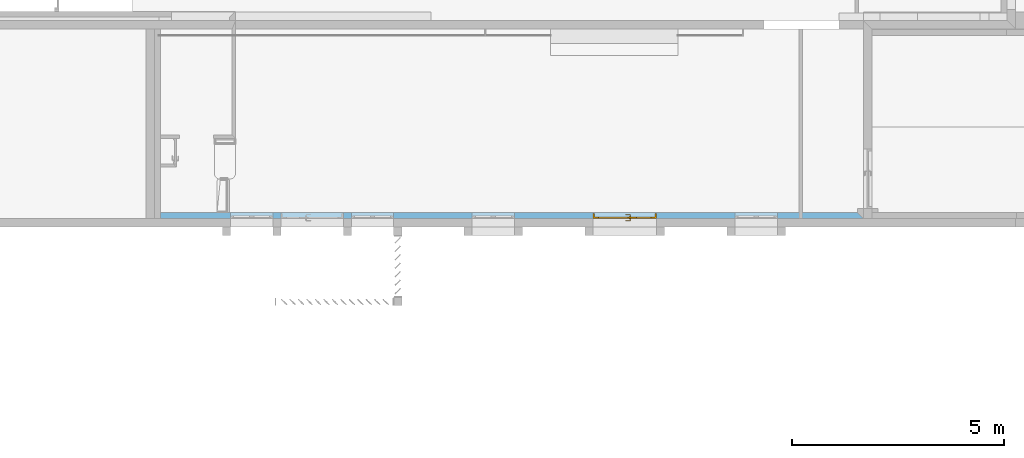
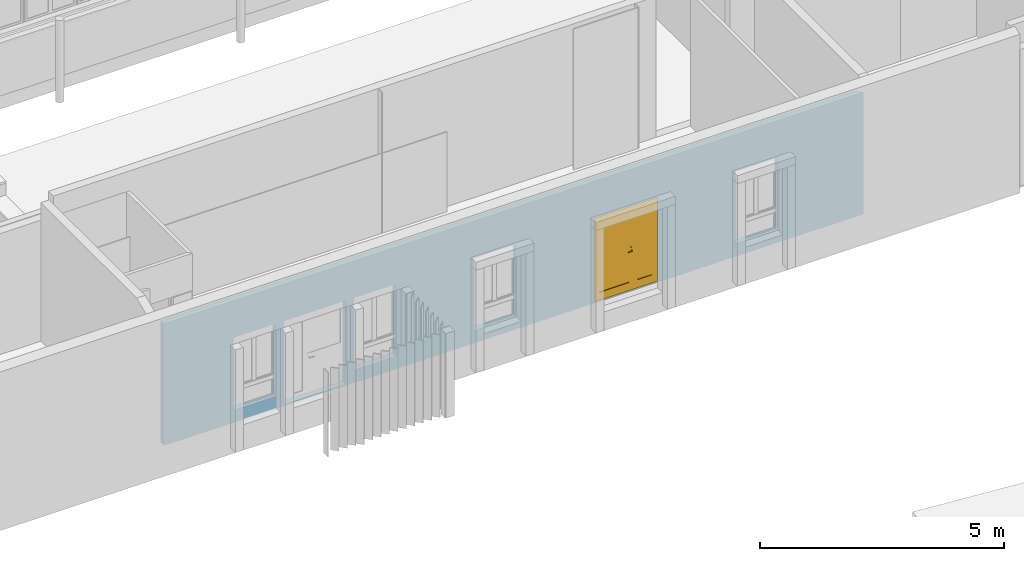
# One storey, part 15 of 34: 1 door, 6 openings, plus 1 element that does not belong to this part.
"""IFC2X3 building model written with IfcOpenShell, lengths in metres."""

import ifcopenshell
import ifcopenshell.guid

model = None  # the IFC model being written
_history = None  # IfcOwnerHistory: only IFC2X3 demands one
_inside = {}  # id of a spatial element -> (the spatial element, [elements in it])
_under = {}  # id of a project, library or spatial element -> (it, [spatial elements below it])
_declared = {}  # id of a project -> (the project, [libraries it declares])
_typed = {}  # id of a type object -> (the type object, [elements of that type])
_made_of = {}  # id of a material, layer set ... -> (it, [elements and type objects made of it])


def new_model(schema):
    """Start an empty IFC model of exactly this schema.

    Asked for "IFC4X3", IfcOpenShell would pick the latest addendum, in which some entities
    have other attributes; the version numbers below select the first issue.
    IFC2X3 requires an IfcOwnerHistory on every rooted entity: one is made here for all.
    """
    global model, _history
    if schema == "IFC4X3":
        model = ifcopenshell.file(schema_version=(4, 3, 0, 0))
    else:
        model = ifcopenshell.file(schema=schema)
    _inside.clear()
    _under.clear()
    _declared.clear()
    _typed.clear()
    _made_of.clear()
    _history = None
    if model.schema == "IFC2X3":
        org = make("IfcOrganization", Name="unknown")
        user = make(
            "IfcPersonAndOrganization",
            ThePerson=make("IfcPerson", FamilyName="unknown"),
            TheOrganization=org,
        )
        app = make(
            "IfcApplication",
            ApplicationDeveloper=org,
            Version="unknown",
            ApplicationFullName="unknown",
            ApplicationIdentifier="unknown",
        )
        _history = make(
            "IfcOwnerHistory",
            OwningUser=user,
            OwningApplication=app,
            ChangeAction="ADDED",
            CreationDate=0,
        )
    return model


def make(cls, **values):
    """One entity of the class cls with the attributes given. An attribute that is None is left unset."""
    return model.create_entity(
        cls, **{name: value for name, value in values.items() if value is not None}
    )


def entity(cls, *values):
    """Any entity or typed value of the class cls, its attributes in the order of the schema. None: left unset."""
    e = model.create_entity(cls)
    for i, value in enumerate(values):
        if value is not None:
            e[i] = value
    return e


def rooted(cls, **values):
    """An entity with a GlobalId (a new one), such as an element, a storey or a relation."""
    return make(cls, GlobalId=ifcopenshell.guid.new(), OwnerHistory=_history, **values)


def si_unit(unit_type, name, prefix=None):
    """IfcSIUnit, for example si_unit("LENGTHUNIT", "METRE", prefix="MILLI")."""
    return make("IfcSIUnit", UnitType=unit_type, Prefix=prefix, Name=name)


def converted_unit(unit_type, name, factor, base, dimensions=None, offset=None):
    """IfcConversionBasedUnit, such as the inch: factor (a typed value) times the base unit."""
    return make(
        "IfcConversionBasedUnit"
        if offset is None
        else "IfcConversionBasedUnitWithOffset",
        ConversionOffset=offset,
        Dimensions=None
        if dimensions is None
        else entity("IfcDimensionalExponents", *dimensions),
        UnitType=unit_type,
        Name=name,
        ConversionFactor=make(
            "IfcMeasureWithUnit", ValueComponent=factor, UnitComponent=base
        ),
    )


def derived_unit(unit_type, elements):
    """IfcDerivedUnit: a product of units, each with its exponent."""
    return make(
        "IfcDerivedUnit",
        Elements=[
            make("IfcDerivedUnitElement", Unit=unit, Exponent=power)
            for unit, power in elements
        ],
        UnitType=unit_type,
    )


def money_unit(currency):
    """IfcMonetaryUnit."""
    return make("IfcMonetaryUnit", Currency=currency)


def assignment(units):
    """IfcUnitAssignment: the units of a project."""
    return None if units is None else make("IfcUnitAssignment", Units=units)


def point(xyz):
    """IfcCartesianPoint."""
    return None if xyz is None else make("IfcCartesianPoint", Coordinates=xyz)


def direction(xyz):
    """IfcDirection."""
    return None if xyz is None else make("IfcDirection", DirectionRatios=xyz)


def frame(location, z_axis=None, x_axis=None):
    """IfcAxis2Placement3D, a coordinate frame: its origin and axes. An axis left out is left unset."""
    return make(
        "IfcAxis2Placement3D",
        Location=point(location),
        Axis=direction(z_axis),
        RefDirection=direction(x_axis),
    )


def frame_2d(location, x_axis=None):
    """IfcAxis2Placement2D, a coordinate frame in the plane: its origin and x axis."""
    return make(
        "IfcAxis2Placement2D", Location=point(location), RefDirection=direction(x_axis)
    )


def origin_with_axes():
    """The frame at (0, 0, 0) with the z axis (0, 0, 1) and the x axis (1, 0, 0) written out."""
    return frame((0.0, 0.0, 0.0), z_axis=(0.0, 0.0, 1.0), x_axis=(1.0, 0.0, 0.0))


def origin_2d_with_axis():
    """The frame at (0, 0) in the plane with the x axis (1, 0) written out."""
    return frame_2d((0.0, 0.0), x_axis=(1.0, 0.0))


def place(relative_to, where):
    """IfcLocalPlacement: puts the frame where relative to a parent placement (None: the world)."""
    return make(
        "IfcLocalPlacement", PlacementRelTo=relative_to, RelativePlacement=where
    )


def context(
    kind, dimensions, precision=None, world=None, true_north=None, identifier=None
):
    """IfcGeometricRepresentationContext, for example the 3D "Model" context."""
    return make(
        "IfcGeometricRepresentationContext",
        ContextIdentifier=identifier,
        ContextType=kind,
        CoordinateSpaceDimension=dimensions,
        Precision=precision,
        WorldCoordinateSystem=world,
        TrueNorth=true_north,
    )


def subcontext(parent, identifier, kind, view, scale=None):
    """IfcGeometricRepresentationSubContext, for example "Body" below "Model"."""
    return make(
        "IfcGeometricRepresentationSubContext",
        ContextIdentifier=identifier,
        ContextType=kind,
        ParentContext=parent,
        TargetScale=scale,
        TargetView=view,
    )


def project(units=None, contexts=None):
    """IfcProject with its units and contexts."""
    return rooted(
        "IfcProject",
        Name="project",
        RepresentationContexts=contexts,
        UnitsInContext=assignment(units),
    )


def spatial(cls, under=None, at=None, **own):
    """A site, building, storey or space (cls), placed at a placement, below another one or the project."""
    s = rooted(cls, ObjectPlacement=at, **own)
    if under is not None:
        _under.setdefault(under.id(), (under, []))[1].append(s)
    return s


def polyline(points):
    """IfcPolyline through the points."""
    return make("IfcPolyline", Points=[point(p) for p in points])


def profile(cls, at=None, kind="AREA", **sizes):
    """A parametric profile (cls). Its sizes go by their IFC names, for example OverallWidth=200.0."""
    return make(cls, ProfileType=kind, Position=at, **sizes)


def rectangle(**sizes):
    """IfcRectangleProfileDef."""
    return profile("IfcRectangleProfileDef", **sizes)


def outline(outer, holes=None, kind="AREA"):
    """IfcArbitraryClosedProfileDef: a profile drawn as a closed curve; with holes, ...WithVoids."""
    if holes is None:
        return make("IfcArbitraryClosedProfileDef", ProfileType=kind, OuterCurve=outer)
    return make(
        "IfcArbitraryProfileDefWithVoids",
        ProfileType=kind,
        OuterCurve=outer,
        InnerCurves=holes,
    )


def extrude(swept, where, along, depth):
    """IfcExtrudedAreaSolid: the profile swept, set in the frame where, extruded along a direction by depth."""
    return make(
        "IfcExtrudedAreaSolid",
        SweptArea=swept,
        Position=where,
        ExtrudedDirection=direction(along),
        Depth=depth,
    )


def faces_of(points, faces, orient=None, outer=None):
    """IfcFace entities. A face is a list of loops; a loop is a list of indices into points, from 0.

    orient and outer hold one flag for each loop. By default every Orientation is true, the
    first loop of a face is its IfcFaceOuterBound and the others are IfcFaceBound.
    """
    made = []
    for i, loops in enumerate(faces):
        bounds = []
        for j, loop in enumerate(loops):
            is_outer = j == 0 if outer is None else outer[i][j]
            bounds.append(
                make(
                    "IfcFaceOuterBound" if is_outer else "IfcFaceBound",
                    Bound=make("IfcPolyLoop", Polygon=[points[k] for k in loop]),
                    Orientation=True if orient is None else orient[i][j],
                )
            )
        made.append(make("IfcFace", Bounds=bounds))
    return made


def open_shell(faces, orient=None, outer=None):
    """The faces of one IfcOpenShell. surface_model builds it on its shared points."""
    return ("IfcOpenShell", faces, orient, outer)


def faceted_brep(points, faces, orient=None, outer=None, voids=None):
    """IfcFacetedBrep: a solid bounded by flat faces; with voids (closed shells), ...WithVoids."""
    shared = [point(p) for p in points]
    hull = make("IfcClosedShell", CfsFaces=faces_of(shared, faces, orient, outer))
    if voids is None:
        return make("IfcFacetedBrep", Outer=hull)
    return make(
        "IfcFacetedBrepWithVoids",
        Outer=hull,
        Voids=[
            make(cls, CfsFaces=faces_of(shared, fs, o, b)) for cls, fs, o, b in voids
        ],
    )


def surface_model(cls, points, shells):
    """IfcFaceBasedSurfaceModel or IfcShellBasedSurfaceModel (cls): surfaces that need not close."""
    shared = [point(p) for p in points]
    made = [make(c, CfsFaces=faces_of(shared, fs, o, b)) for c, fs, o, b in shells]
    if cls == "IfcFaceBasedSurfaceModel":
        return make(cls, FbsmFaces=made)
    return make(cls, SbsmBoundary=made)


def shape(context_of_items, identifier, shape_type, items):
    """IfcShapeRepresentation: the items that make up one representation, for example the "Body"."""
    return make(
        "IfcShapeRepresentation",
        ContextOfItems=context_of_items,
        RepresentationIdentifier=identifier,
        RepresentationType=shape_type,
        Items=items,
    )


def material(Name=None, Category=None):
    """IfcMaterial."""
    return make("IfcMaterial", Name=Name, Category=Category)


def layer(
    of_material, thickness, ventilated=None, Name=None, Category=None, Priority=None
):
    """IfcMaterialLayer: one layer of a wall or slab, of a material (None: an air gap)."""
    return make(
        "IfcMaterialLayer",
        Material=of_material,
        LayerThickness=thickness,
        IsVentilated=ventilated,
        Name=Name,
        Category=Category,
        Priority=Priority,
    )


def layer_set(layers, Name=None):
    """IfcMaterialLayerSet."""
    return make("IfcMaterialLayerSet", MaterialLayers=layers, LayerSetName=Name)


def layer_usage(for_layer_set, set_direction, sense, offset, extent=None):
    """IfcMaterialLayerSetUsage: how a layer set lies in its element."""
    return make(
        "IfcMaterialLayerSetUsage",
        ForLayerSet=for_layer_set,
        LayerSetDirection=set_direction,
        DirectionSense=sense,
        OffsetFromReferenceLine=offset,
        ReferenceExtent=extent,
    )


def made_of(thing, what):
    """Note that an element or type object is made of a material, layer set ...; save() writes the relation."""
    if what is not None:
        _made_of.setdefault(what.id(), (what, []))[1].append(thing)
    return thing


def type_object(cls, material=None, **own):
    """A type object (cls), such as IfcWallType, which elements share."""
    return made_of(rooted(cls, **own), material)


def element(
    cls,
    number,
    at=None,
    inside=None,
    cuts=None,
    type_object=None,
    material=None,
    context=None,
    identifier="Body",
    shape_type=None,
    held_by="IfcProductDefinitionShape",
    body=None,
    shapes=None,
    **own,
):
    """One element of the class cls, such as IfcWall. Its Tag is "e" and its number.

    at: its placement. inside: the storey or other place that contains it. cuts: it is an
    opening in that element (IfcRelVoidsElement). A single representation is given by context,
    identifier, shape_type and body (its items); several are given by shapes. held_by: the class
    of the entity that holds the representations. save() writes the other relations.
    """
    e = rooted(cls, Tag="e%d" % number, ObjectPlacement=at, **own)
    if body is not None:
        shapes = [shape(context, identifier, shape_type, body)]
    if shapes is not None:
        e.Representation = make(held_by, Representations=shapes)
    if inside is not None:
        _inside.setdefault(inside.id(), (inside, []))[1].append(e)
    if cuts is not None:
        rooted(
            "IfcRelVoidsElement", RelatingBuildingElement=cuts, RelatedOpeningElement=e
        )
    if type_object is not None:
        _typed.setdefault(type_object.id(), (type_object, []))[1].append(e)
    return made_of(e, material)


def fill(opening, filler):
    """IfcRelFillsElement: the door or window that sits in an opening."""
    return rooted(
        "IfcRelFillsElement",
        RelatingOpeningElement=opening,
        RelatedBuildingElement=filler,
    )


def aggregate(whole, parts):
    """IfcRelAggregates: a whole, such as a stair, and the parts it consists of."""
    return rooted("IfcRelAggregates", RelatingObject=whole, RelatedObjects=parts)


def save(model, path):
    """Write the relations noted so far, then the file.

    IfcRelAggregates (storeys below a building ...), IfcRelContainedInSpatialStructure (elements
    in a storey), IfcRelDefinesByType, IfcRelAssociatesMaterial and IfcRelDeclares: one each for
    every whole, place, type object, material and project.
    """
    for whole, parts in _under.values():
        aggregate(whole, parts)
    for where, things in _inside.values():
        rooted(
            "IfcRelContainedInSpatialStructure",
            RelatedElements=things,
            RelatingStructure=where,
        )
    for kind, things in _typed.values():
        rooted("IfcRelDefinesByType", RelatedObjects=things, RelatingType=kind)
    for what, things in _made_of.values():
        rooted("IfcRelAssociatesMaterial", RelatedObjects=things, RelatingMaterial=what)
    for by, libraries in _declared.values():
        rooted("IfcRelDeclares", RelatingContext=by, RelatedDefinitions=libraries)
    model.write(path)


model = new_model("IFC2X3")

# Units and contexts
model_context = context("Model", 3, precision=1e-05, world=origin_with_axes(), true_north=direction((0.0, 1.0)))
body_context = subcontext(model_context, "Body", "Model", "MODEL_VIEW")
ifc_project = project(units=[si_unit("LENGTHUNIT", "METRE"), si_unit("AREAUNIT", "SQUARE_METRE"), si_unit("VOLUMEUNIT", "CUBIC_METRE"), converted_unit("PLANEANGLEUNIT", "DEGREE", entity("IfcPlaneAngleMeasure", 0.0174532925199), si_unit("PLANEANGLEUNIT", "RADIAN"), dimensions=[0, 0, 0, 0, 0, 0, 0]), money_unit("CHF"), converted_unit("TIMEUNIT", "Year", entity("IfcTimeMeasure", 31556926.0), si_unit("TIMEUNIT", "SECOND"), dimensions=[0, 0, 1, 0, 0, 0, 0]), si_unit("MASSUNIT", "GRAM", prefix="KILO"), si_unit("THERMODYNAMICTEMPERATUREUNIT", "DEGREE_CELSIUS"), si_unit("LUMINOUSINTENSITYUNIT", "LUMEN"), si_unit("ENERGYUNIT", "JOULE", prefix="MEGA"), derived_unit("THERMALCONDUCTANCEUNIT", [(si_unit("POWERUNIT", "WATT"), 1), (si_unit("LENGTHUNIT", "METRE"), -1), (si_unit("THERMODYNAMICTEMPERATUREUNIT", "KELVIN"), -1)]), derived_unit("SPECIFICHEATCAPACITYUNIT", [(si_unit("ENERGYUNIT", "JOULE"), 1), (si_unit("MASSUNIT", "GRAM", prefix="KILO"), -1), (si_unit("THERMODYNAMICTEMPERATUREUNIT", "KELVIN"), -1)]), derived_unit("MASSDENSITYUNIT", [(si_unit("MASSUNIT", "GRAM", prefix="KILO"), 1), (si_unit("VOLUMEUNIT", "CUBIC_METRE"), -1)])], contexts=[model_context])

# Site, building, storey
site_placement = place(None, origin_with_axes())
site = spatial("IfcSite", under=ifc_project, at=site_placement, Name="Site", CompositionType="ELEMENT")
building_placement = place(site_placement, origin_with_axes())
building = spatial("IfcBuilding", under=site, at=building_placement, Name="Bâtiment", CompositionType="ELEMENT")
storey_placement = place(building_placement, origin_with_axes())
storey = spatial("IfcBuildingStorey", under=building, at=storey_placement, Name="RDC", CompositionType="ELEMENT", Elevation=-5.32907e-15)

# Wall, openings, door
ifc_material_1 = material(Name="Isolation laine de pierre 378182646")
ifc_layer_1 = layer(ifc_material_1, 0.12, ventilated="UNKNOWN")
ifc_material_2 = material(Name="Plâtre lissé 291446788")
ifc_layer_2 = layer(ifc_material_2, 0.02, ventilated="UNKNOWN")
ifc_layer_set = layer_set([ifc_layer_1, ifc_layer_2], Name="DOUBLAGE ISO + BA13 14 CM")
ifc_layer_usage = layer_usage(ifc_layer_set, "AXIS2", "POSITIVE", 0.0)
wall_type = type_object("IfcWallType", Name="DOUBLAGE ISO + BA13 14 CM 140", PredefinedType="NOTDEFINED")
wall_placement = place(storey_placement, frame((1675.44729001, 177.58004191, 0.44), z_axis=(0.0, 0.0, 1.0), x_axis=(1.0, 0.0, 0.0)))
wall = element("IfcWallStandardCase", 1, at=wall_placement, inside=storey, type_object=wall_type, material=ifc_layer_usage, Name="Mur-005", context=body_context, shape_type="SweptSolid", body=[
    extrude(outline(polyline([(0.14, 0.0), (16.71995181, 0.0), (16.57995181, 0.14), (0.14, 0.14), (0.14, 0.0)])), origin_with_axes(), (0.0, 0.0, 1.0), 3.05067199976),
])
opening_1_placement = place(wall_placement, frame((5.14, 0.0, 0.31), z_axis=(0.0, 0.0, 1.0), x_axis=(1.0, 0.0, 0.0)))
element("IfcOpeningElement", 2, at=opening_1_placement, cuts=wall, Name="Fen-003", context=body_context, shape_type="SweptSolid", body=[
    extrude(rectangle(XDim=1.0, YDim=1.82, at=origin_2d_with_axis()), frame((0.0, 0.14, 0.91), z_axis=(0.0, 1.0, 0.0), x_axis=(-1.0, 0.0, 0.0)), (0.0, 0.0, -1.0), 0.42),
])
opening_2_placement = place(wall_placement, frame((7.99, 0.0, 0.31), z_axis=(0.0, 0.0, 1.0), x_axis=(1.0, 0.0, 0.0)))
element("IfcOpeningElement", 3, at=opening_2_placement, cuts=wall, Name="Fen-003", context=body_context, shape_type="SweptSolid", body=[
    extrude(rectangle(XDim=1.0, YDim=1.82, at=origin_2d_with_axis()), frame((0.0, 0.14, 0.91), z_axis=(0.0, 1.0, 0.0), x_axis=(-1.0, 0.0, 0.0)), (0.0, 0.0, -1.0), 0.42),
])
opening_3_placement = place(wall_placement, frame((14.19, 0.0, 0.31), z_axis=(0.0, 0.0, 1.0), x_axis=(1.0, 0.0, 0.0)))
element("IfcOpeningElement", 4, at=opening_3_placement, cuts=wall, Name="Fen-003", context=body_context, shape_type="SweptSolid", body=[
    extrude(rectangle(XDim=1.0, YDim=1.82, at=origin_2d_with_axis()), frame((0.0, 0.14, 0.91), z_axis=(0.0, 1.0, 0.0), x_axis=(-1.0, 0.0, 0.0)), (0.0, 0.0, -1.0), 0.42),
])
opening_4_placement = place(wall_placement, frame((2.29, 0.0, 0.31), z_axis=(0.0, 0.0, 1.0), x_axis=(1.0, 0.0, 0.0)))
element("IfcOpeningElement", 5, at=opening_4_placement, cuts=wall, Name="Fen-004", context=body_context, shape_type="SweptSolid", body=[
    extrude(rectangle(XDim=1.0, YDim=1.82, at=origin_2d_with_axis()), frame((0.0, 0.14, 0.91), z_axis=(0.0, 1.0, 0.0), x_axis=(-1.0, 0.0, 0.0)), (0.0, 0.0, -1.0), 0.42),
])
opening_5_placement = place(wall_placement, frame((11.09, 0.0, 0.03), z_axis=(0.0, 0.0, 1.0), x_axis=(1.0, 0.0, 0.0)))
opening_5 = element("IfcOpeningElement", 6, at=opening_5_placement, cuts=wall, Name="Por-006", context=body_context, shape_type="SweptSolid", body=[
    extrude(rectangle(XDim=1.5, YDim=2.1, at=origin_2d_with_axis()), frame((0.0, 0.14, 1.05), z_axis=(0.0, -1.0, 0.0), x_axis=(-1.0, 0.0, 0.0)), (0.0, 0.0, 1.0), 0.42),
])
opening_6_placement = place(wall_placement, frame((3.715, 0.0, 0.03), z_axis=(0.0, 0.0, 1.0), x_axis=(1.0, 0.0, 0.0)))
element("IfcOpeningElement", 7, at=opening_6_placement, cuts=wall, Name="Por-006", context=body_context, shape_type="SweptSolid", body=[
    extrude(rectangle(XDim=1.47, YDim=2.1, at=origin_2d_with_axis()), frame((0.0, 0.14, 1.05), z_axis=(0.0, 1.0, 0.0), x_axis=(1.0, 0.0, 0.0)), (0.0, 0.0, -1.0), 0.42),
])
door_style = type_object("IfcDoorStyle", Name="Porte double asymétrique 25", ConstructionType="NOTDEFINED", OperationType="DOUBLE_DOOR_SINGLE_SWING", ParameterTakesPrecedence=False, Sizeable=False)
door_placement = place(opening_5_placement, frame((0.75, 0.0, 0.0), z_axis=(0.0, 0.0, 1.0), x_axis=(-1.0, 0.0, 0.0)))
door = element("IfcDoor", 8, at=door_placement, inside=storey, type_object=door_style, Name="Por-006", OverallHeight=2.1, OverallWidth=1.5, context=body_context, shape_type="SurfaceModel", body=[
    faceted_brep([(0.04, -0.04, 0.0), (0.04, -0.04, 2.06), (0.04, -0.115, 2.06), (0.04, -0.115, 0.0), (0.028, -0.04, 2.06), (0.028, -0.04, 0.0), (0.028, 0.0, 2.06), (0.0, 0.0, 2.06), (0.0, -0.115, 2.06), (0.0, -0.115, 0.0), (0.0, 0.0, 0.0), (0.028, 0.0, 0.0)], [[[0, 1, 2, 3]], [[4, 1, 0, 5]], [[4, 6, 7, 8, 2, 1]], [[3, 2, 8, 9]], [[5, 0, 3, 9, 10, 11]], [[6, 4, 5, 11]], [[6, 11, 10, 7]], [[10, 9, 8, 7]]]),
    faceted_brep([(1.472, -0.04, 2.06), (1.46, -0.04, 2.06), (1.46, -0.115, 2.06), (1.5, -0.115, 2.06), (1.5, 0.0, 2.06), (1.472, 0.0, 2.06), (1.472, -0.04, 0.0), (1.46, -0.04, 0.0), (1.46, -0.115, 0.0), (1.5, -0.115, 0.0), (1.5, 0.0, 0.0), (1.472, 0.0, 0.0)], [[[0, 1, 2, 3, 4, 5]], [[1, 0, 6, 7]], [[1, 7, 8, 2]], [[3, 2, 8, 9]], [[4, 3, 9, 10]], [[11, 5, 4, 10]], [[0, 5, 11, 6]], [[6, 11, 10, 9, 8, 7]]]),
    faceted_brep([(0.028, 0.0, 2.072), (0.028, 0.0, 2.06), (0.0, 0.0, 2.06), (0.0, 0.0, 2.1), (1.5, 0.0, 2.1), (1.5, 0.0, 2.06), (1.472, 0.0, 2.06), (1.472, 0.0, 2.072), (0.028, -0.04, 2.072), (0.028, -0.04, 2.06), (0.04, -0.04, 2.06), (0.04, -0.115, 2.06), (0.0, -0.115, 2.06), (0.0, -0.115, 2.1), (1.5, -0.115, 2.1), (1.5, -0.115, 2.06), (1.472, -0.04, 2.06), (1.46, -0.115, 2.06), (1.46, -0.04, 2.06), (1.472, -0.04, 2.072)], [[[0, 1, 2, 3, 4, 5, 6, 7]], [[1, 0, 8, 9]], [[9, 10, 11, 12, 2, 1]], [[2, 12, 13, 3]], [[3, 13, 14, 4]], [[4, 14, 15, 5]], [[16, 6, 5, 15, 17, 18]], [[7, 6, 16, 19]], [[0, 7, 19, 8]], [[16, 18, 10, 9, 8, 19]], [[10, 18, 17, 11]], [[17, 15, 14, 13, 12, 11]]]),
    faceted_brep([(0.597, -0.04, 0.93), (0.598903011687, -0.04, 0.920432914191), (0.598903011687, -0.045, 0.920432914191), (0.597, -0.045, 0.93), (0.597, -0.04, 1.055), (0.598903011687, -0.04, 1.06456708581), (0.60432233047, -0.04, 1.07267766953), (0.612432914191, -0.04, 1.07809698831), (0.622, -0.04, 1.08), (0.631567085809, -0.04, 1.07809698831), (0.63967766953, -0.04, 1.07267766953), (0.645096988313, -0.04, 1.06456708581), (0.647, -0.04, 1.055), (0.647, -0.04, 0.93), (0.645096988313, -0.04, 0.920432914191), (0.63967766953, -0.04, 0.91232233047), (0.631567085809, -0.04, 0.906903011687), (0.622, -0.04, 0.905), (0.612432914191, -0.04, 0.906903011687), (0.60432233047, -0.04, 0.91232233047), (0.60432233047, -0.045, 0.91232233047), (0.612432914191, -0.045, 0.906903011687), (0.622, -0.045, 0.905), (0.631567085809, -0.045, 0.906903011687), (0.63967766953, -0.045, 0.91232233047), (0.645096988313, -0.045, 0.920432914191), (0.647, -0.045, 0.93), (0.647, -0.045, 1.055), (0.645096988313, -0.045, 1.06456708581), (0.63967766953, -0.045, 1.07267766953), (0.631567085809, -0.045, 1.07809698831), (0.622, -0.045, 1.08), (0.612432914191, -0.045, 1.07809698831), (0.60432233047, -0.045, 1.07267766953), (0.598903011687, -0.045, 1.06456708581), (0.597, -0.045, 1.055)], [[[0, 1, 2, 3]], [[0, 4, 5, 6, 7, 8, 9, 10, 11, 12, 13, 14, 15, 16, 17, 18, 19, 1]], [[1, 19, 20, 2]], [[3, 2, 20, 21, 22, 23, 24, 25, 26, 27, 28, 29, 30, 31, 32, 33, 34, 35]], [[4, 0, 3, 35]], [[5, 4, 35, 34]], [[6, 5, 34, 33]], [[7, 6, 33, 32]], [[8, 7, 32, 31]], [[9, 8, 31, 30]], [[10, 9, 30, 29]], [[11, 10, 29, 28]], [[12, 11, 28, 27]], [[13, 12, 27, 26]], [[14, 13, 26, 25]], [[15, 14, 25, 24]], [[16, 15, 24, 23]], [[17, 16, 23, 22]], [[18, 17, 22, 21]], [[19, 18, 21, 20]]]),
    faceted_brep([(0.6295, -0.045, 1.005), (0.6295, -0.075, 1.005), (0.6295, -0.075, 0.995), (0.6295, -0.045, 0.995), (0.6145, -0.045, 1.005), (0.6145, -0.082, 1.005), (0.615489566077, -0.0869748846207, 1.005), (0.618307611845, -0.0911923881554, 1.005), (0.622525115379, -0.0940104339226, 1.005), (0.6275, -0.095, 1.005), (0.7345, -0.095, 1.005), (0.7345, -0.093, 1.005), (0.733510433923, -0.0880251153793, 1.005), (0.730692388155, -0.0838076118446, 1.005), (0.726474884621, -0.0809895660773, 1.005), (0.7215, -0.08, 1.005), (0.6345, -0.08, 1.005), (0.632586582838, -0.0796193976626, 1.005), (0.630964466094, -0.0785355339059, 1.005), (0.629880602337, -0.0769134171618, 1.005), (0.629880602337, -0.0769134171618, 0.995), (0.630964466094, -0.0785355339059, 0.995), (0.632586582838, -0.0796193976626, 0.995), (0.6345, -0.08, 0.995), (0.7215, -0.08, 0.995), (0.726474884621, -0.0809895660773, 0.995), (0.730692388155, -0.0838076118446, 0.995), (0.733510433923, -0.0880251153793, 0.995), (0.7345, -0.093, 0.995), (0.7345, -0.095, 0.995), (0.6275, -0.095, 0.995), (0.622525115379, -0.0940104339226, 0.995), (0.618307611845, -0.0911923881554, 0.995), (0.615489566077, -0.0869748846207, 0.995), (0.6145, -0.082, 0.995), (0.6145, -0.045, 0.995)], [[[0, 1, 2, 3]], [[0, 4, 5, 6, 7, 8, 9, 10, 11, 12, 13, 14, 15, 16, 17, 18, 19, 1]], [[1, 19, 20, 2]], [[3, 2, 20, 21, 22, 23, 24, 25, 26, 27, 28, 29, 30, 31, 32, 33, 34, 35]], [[4, 0, 3, 35]], [[5, 4, 35, 34]], [[6, 5, 34, 33]], [[7, 6, 33, 32]], [[8, 7, 32, 31]], [[9, 8, 31, 30]], [[10, 9, 30, 29]], [[11, 10, 29, 28]], [[12, 11, 28, 27]], [[13, 12, 27, 26]], [[14, 13, 26, 25]], [[15, 14, 25, 24]], [[16, 15, 24, 23]], [[17, 16, 23, 22]], [[18, 17, 22, 21]], [[19, 18, 21, 20]]]),
    faceted_brep([(0.597, 0.0, 0.93), (0.597, 0.005, 0.93), (0.598903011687, 0.005, 0.920432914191), (0.598903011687, 0.0, 0.920432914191), (0.597, 0.0, 1.055), (0.597, 0.005, 1.055), (0.598903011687, 0.005, 1.06456708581), (0.60432233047, 0.005, 1.07267766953), (0.612432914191, 0.005, 1.07809698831), (0.622, 0.005, 1.08), (0.631567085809, 0.005, 1.07809698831), (0.63967766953, 0.005, 1.07267766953), (0.645096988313, 0.005, 1.06456708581), (0.647, 0.005, 1.055), (0.647, 0.005, 0.93), (0.645096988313, 0.005, 0.920432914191), (0.63967766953, 0.005, 0.91232233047), (0.631567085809, 0.005, 0.906903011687), (0.622, 0.005, 0.905), (0.612432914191, 0.005, 0.906903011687), (0.60432233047, 0.005, 0.91232233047), (0.60432233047, 0.0, 0.91232233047), (0.612432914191, 0.0, 0.906903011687), (0.622, 0.0, 0.905), (0.631567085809, 0.0, 0.906903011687), (0.63967766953, 0.0, 0.91232233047), (0.645096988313, 0.0, 0.920432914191), (0.647, 0.0, 0.93), (0.647, 0.0, 1.055), (0.645096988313, 0.0, 1.06456708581), (0.63967766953, 0.0, 1.07267766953), (0.631567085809, 0.0, 1.07809698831), (0.622, 0.0, 1.08), (0.612432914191, 0.0, 1.07809698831), (0.60432233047, 0.0, 1.07267766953), (0.598903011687, 0.0, 1.06456708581)], [[[0, 1, 2, 3]], [[4, 5, 1, 0]], [[1, 5, 6, 7, 8, 9, 10, 11, 12, 13, 14, 15, 16, 17, 18, 19, 20, 2]], [[3, 2, 20, 21]], [[0, 3, 21, 22, 23, 24, 25, 26, 27, 28, 29, 30, 31, 32, 33, 34, 35, 4]], [[35, 6, 5, 4]], [[34, 7, 6, 35]], [[33, 8, 7, 34]], [[32, 9, 8, 33]], [[31, 10, 9, 32]], [[30, 11, 10, 31]], [[29, 12, 11, 30]], [[28, 13, 12, 29]], [[27, 14, 13, 28]], [[26, 15, 14, 27]], [[25, 16, 15, 26]], [[24, 17, 16, 25]], [[23, 18, 17, 24]], [[22, 19, 18, 23]], [[21, 20, 19, 22]]]),
    faceted_brep([(0.6295, 0.005, 1.005), (0.6295, 0.005, 0.995), (0.6295, 0.035, 0.995), (0.6295, 0.035, 1.005), (0.6145, 0.005, 1.005), (0.6145, 0.005, 0.995), (0.6145, 0.042, 0.995), (0.615489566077, 0.0469748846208, 0.995), (0.618307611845, 0.0511923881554, 0.995), (0.622525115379, 0.0540104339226, 0.995), (0.6275, 0.055, 0.995), (0.7345, 0.055, 0.995), (0.7345, 0.053, 0.995), (0.733510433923, 0.0480251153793, 0.995), (0.730692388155, 0.0438076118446, 0.995), (0.726474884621, 0.0409895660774, 0.995), (0.7215, 0.04, 0.995), (0.6345, 0.04, 0.995), (0.632586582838, 0.0396193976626, 0.995), (0.630964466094, 0.0385355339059, 0.995), (0.629880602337, 0.0369134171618, 0.995), (0.629880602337, 0.0369134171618, 1.005), (0.630964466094, 0.0385355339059, 1.005), (0.632586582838, 0.0396193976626, 1.005), (0.6345, 0.04, 1.005), (0.7215, 0.04, 1.005), (0.726474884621, 0.0409895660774, 1.005), (0.730692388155, 0.0438076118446, 1.005), (0.733510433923, 0.0480251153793, 1.005), (0.7345, 0.053, 1.005), (0.7345, 0.055, 1.005), (0.6275, 0.055, 1.005), (0.622525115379, 0.0540104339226, 1.005), (0.618307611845, 0.0511923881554, 1.005), (0.615489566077, 0.0469748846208, 1.005), (0.6145, 0.042, 1.005)], [[[0, 1, 2, 3]], [[4, 5, 1, 0]], [[1, 5, 6, 7, 8, 9, 10, 11, 12, 13, 14, 15, 16, 17, 18, 19, 20, 2]], [[3, 2, 20, 21]], [[0, 3, 21, 22, 23, 24, 25, 26, 27, 28, 29, 30, 31, 32, 33, 34, 35, 4]], [[35, 6, 5, 4]], [[34, 7, 6, 35]], [[33, 8, 7, 34]], [[32, 9, 8, 33]], [[31, 10, 9, 32]], [[30, 11, 10, 31]], [[29, 12, 11, 30]], [[28, 13, 12, 29]], [[27, 14, 13, 28]], [[26, 15, 14, 27]], [[25, 16, 15, 26]], [[24, 17, 16, 25]], [[23, 18, 17, 24]], [[22, 19, 18, 23]], [[21, 20, 19, 22]]]),
    faceted_brep([(1.472, 0.0, 0.2), (1.472, -0.04, 0.2), (1.372, -0.04, 0.2), (1.372, 0.0, 0.2), (1.472, 0.0, 1.972), (1.472, -0.04, 1.972), (1.372, -0.04, 1.972), (1.372, 0.0, 1.972)], [[[0, 1, 2, 3]], [[4, 5, 1, 0]], [[1, 5, 6, 2]], [[3, 2, 6, 7]], [[0, 3, 7, 4]], [[7, 6, 5, 4]]]),
    faceted_brep([(0.572, 0.0, 0.2), (0.572, -0.04, 0.2), (0.572, -0.04, 1.972), (0.572, 0.0, 1.972), (0.672, 0.0, 0.2), (0.672, -0.04, 0.2), (0.672, -0.04, 1.972), (0.672, 0.0, 1.972)], [[[0, 1, 2, 3]], [[4, 5, 1, 0]], [[1, 5, 6, 2]], [[3, 2, 6, 7]], [[0, 3, 7, 4]], [[7, 6, 5, 4]]]),
    faceted_brep([(1.472, 0.0, 0.0), (1.472, -0.04, 0.0), (0.572, -0.04, 0.0), (0.572, 0.0, 0.0), (1.472, 0.0, 0.2), (1.472, -0.04, 0.2), (1.372, -0.04, 0.2), (0.672, -0.04, 0.2), (0.572, -0.04, 0.2), (0.572, 0.0, 0.2), (0.672, 0.0, 0.2), (1.372, 0.0, 0.2)], [[[0, 1, 2, 3]], [[4, 5, 1, 0]], [[1, 5, 6, 7, 8, 2]], [[3, 2, 8, 9]], [[0, 3, 9, 10, 11, 4]], [[11, 6, 5, 4]], [[10, 7, 6, 11]], [[9, 8, 7, 10]]]),
    faceted_brep([(1.472, 0.0, 2.072), (1.472, -0.04, 2.072), (1.472, -0.04, 1.972), (1.472, 0.0, 1.972), (0.572, 0.0, 2.072), (0.572, -0.04, 2.072), (0.572, -0.04, 1.972), (0.672, -0.04, 1.972), (1.372, -0.04, 1.972), (1.372, 0.0, 1.972), (0.672, 0.0, 1.972), (0.572, 0.0, 1.972)], [[[0, 1, 2, 3]], [[4, 5, 1, 0]], [[1, 5, 6, 7, 8, 2]], [[3, 2, 8, 9]], [[0, 3, 9, 10, 11, 4]], [[11, 6, 5, 4]], [[10, 7, 6, 11]], [[9, 8, 7, 10]]]),
    surface_model("IfcShellBasedSurfaceModel", [(1.372, -0.014, 0.2), (0.672, -0.014, 0.2), (0.672, -0.014, 1.972), (1.372, -0.014, 1.972)], [open_shell([[[0, 1, 2, 3]]])]),
    surface_model("IfcShellBasedSurfaceModel", [(1.372, -0.026, 0.2), (1.372, -0.026, 1.972), (0.672, -0.026, 1.972), (0.672, -0.026, 0.2)], [open_shell([[[0, 1, 2, 3]]])]),
    faceted_brep([(0.028, 0.0, 0.2), (0.128, 0.0, 0.2), (0.128, -0.04, 0.2), (0.028, -0.04, 0.2), (0.028, 0.0, 1.972), (0.128, 0.0, 1.972), (0.128, -0.04, 1.972), (0.028, -0.04, 1.972)], [[[0, 1, 2, 3]], [[0, 4, 5, 1]], [[1, 5, 6, 2]], [[3, 2, 6, 7]], [[4, 0, 3, 7]], [[5, 4, 7, 6]]]),
    faceted_brep([(0.572, 0.0, 0.2), (0.572, 0.0, 1.972), (0.572, -0.04, 1.972), (0.572, -0.04, 0.2), (0.472, 0.0, 0.2), (0.472, 0.0, 1.972), (0.472, -0.04, 1.972), (0.472, -0.04, 0.2)], [[[0, 1, 2, 3]], [[0, 4, 5, 1]], [[1, 5, 6, 2]], [[3, 2, 6, 7]], [[4, 0, 3, 7]], [[5, 4, 7, 6]]]),
    faceted_brep([(0.028, 0.0, 0.0), (0.572, 0.0, 0.0), (0.572, -0.04, 0.0), (0.028, -0.04, 0.0), (0.028, 0.0, 0.2), (0.128, 0.0, 0.2), (0.472, 0.0, 0.2), (0.572, 0.0, 0.2), (0.572, -0.04, 0.2), (0.472, -0.04, 0.2), (0.128, -0.04, 0.2), (0.028, -0.04, 0.2)], [[[0, 1, 2, 3]], [[0, 4, 5, 6, 7, 1]], [[1, 7, 8, 2]], [[3, 2, 8, 9, 10, 11]], [[4, 0, 3, 11]], [[5, 4, 11, 10]], [[6, 5, 10, 9]], [[7, 6, 9, 8]]]),
    faceted_brep([(0.028, 0.0, 2.072), (0.028, 0.0, 1.972), (0.028, -0.04, 1.972), (0.028, -0.04, 2.072), (0.572, 0.0, 2.072), (0.572, 0.0, 1.972), (0.472, 0.0, 1.972), (0.128, 0.0, 1.972), (0.128, -0.04, 1.972), (0.472, -0.04, 1.972), (0.572, -0.04, 1.972), (0.572, -0.04, 2.072)], [[[0, 1, 2, 3]], [[0, 4, 5, 6, 7, 1]], [[1, 7, 8, 2]], [[3, 2, 8, 9, 10, 11]], [[4, 0, 3, 11]], [[5, 4, 11, 10]], [[6, 5, 10, 9]], [[7, 6, 9, 8]]]),
    surface_model("IfcShellBasedSurfaceModel", [(0.128, -0.014, 0.2), (0.128, -0.014, 1.972), (0.472, -0.014, 1.972), (0.472, -0.014, 0.2)], [open_shell([[[0, 1, 2, 3]]])]),
    surface_model("IfcShellBasedSurfaceModel", [(0.128, -0.026, 0.2), (0.472, -0.026, 0.2), (0.472, -0.026, 1.972), (0.128, -0.026, 1.972)], [open_shell([[[0, 1, 2, 3]]])]),
])
fill(opening_5, door)

save(model, "model.ifc")
